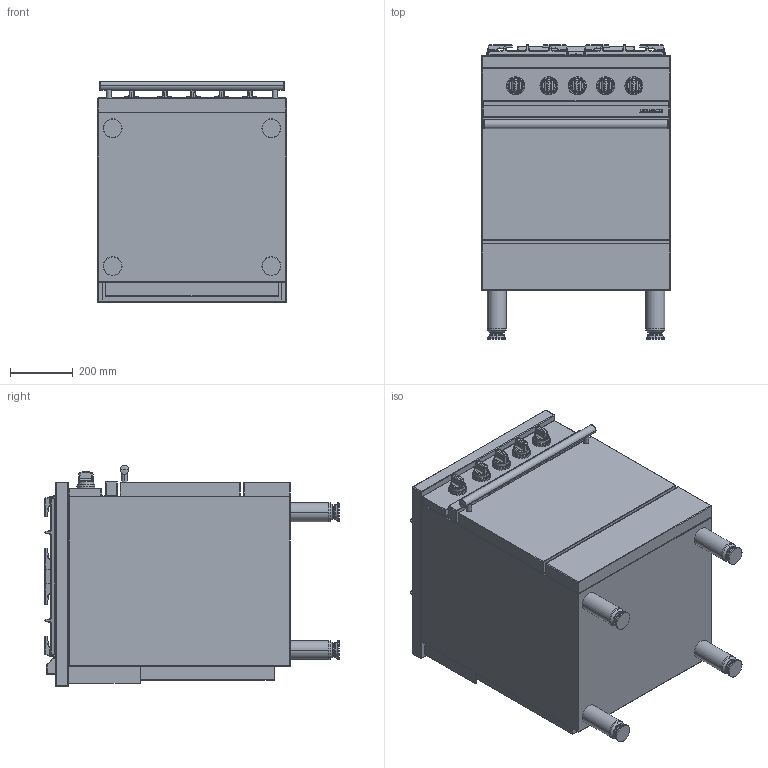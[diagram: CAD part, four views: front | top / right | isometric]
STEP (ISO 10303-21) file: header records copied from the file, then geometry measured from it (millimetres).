
FILE_DESCRIPTION((''),'2;1');
FILE_NAME('CG641P_EXPORT_STEP_ASM','2017-11-22T',('r.avril'),(''),'PRO/ENGINEER BY PARAMETRIC TECHNOLOGY CORPORATION, 2014200','PRO/ENGINEER BY PARAMETRIC TECHNOLOGY CORPORATION, 2014200','');
FILE_SCHEMA(('AP203_CONFIGURATION_CONTROLLED_3D_DESIGN_OF_MECHANICAL_PARTS_AND_ASSEMBLIES_MIM_LF { 1 0 10303 403 2 1 2 }'));
Products named in the file (11): FOURNEAUX_AMB_600_EXPORT_STEP; TABLE_600_CLASSIQUE_4F; 3KW; 1_5KW; 4KW; 6537024; 65149005; 90000487_ASM; TABLE_600_CLASSIQUE_4F_ASM; MANETTE_AMB_EXPORT_STEP; CG641P_EXPORT_STEP_ASM
Assembly tree (19 placements, depth 4):
  CG641P_EXPORT_STEP_ASM
    FOURNEAUX_AMB_600_EXPORT_STEP
    TABLE_600_CLASSIQUE_4F_ASM
      TABLE_600_CLASSIQUE_4F
      3KW  x2
      1_5KW
      4KW
      90000487_ASM  x2
        6537024
        65149005
    MANETTE_AMB_EXPORT_STEP  x5
Bounding box: 600 x 935 x 703 mm (x, y, z)
Volume: 273792700.9 mm3; surface area: 5234721.9 mm2
Topology: 36 solids, 54 shells, 2457 faces, 6925 edges, 4907 vertices
Faces by surface type: bspline 756, cylinder 631, plane 593, cone 243, torus 112, sphere 82, extrusion 40
Entity records: 69264 total; most frequent: CARTESIAN_POINT 24911, ORIENTED_EDGE 6320, DIRECTION 5770, EDGE_CURVE 3385, PRESENTATION_STYLE_ASSIGNMENT 2762, STYLED_ITEM 2762, CURVE_STYLE 2558, VERTEX_POINT 2141
